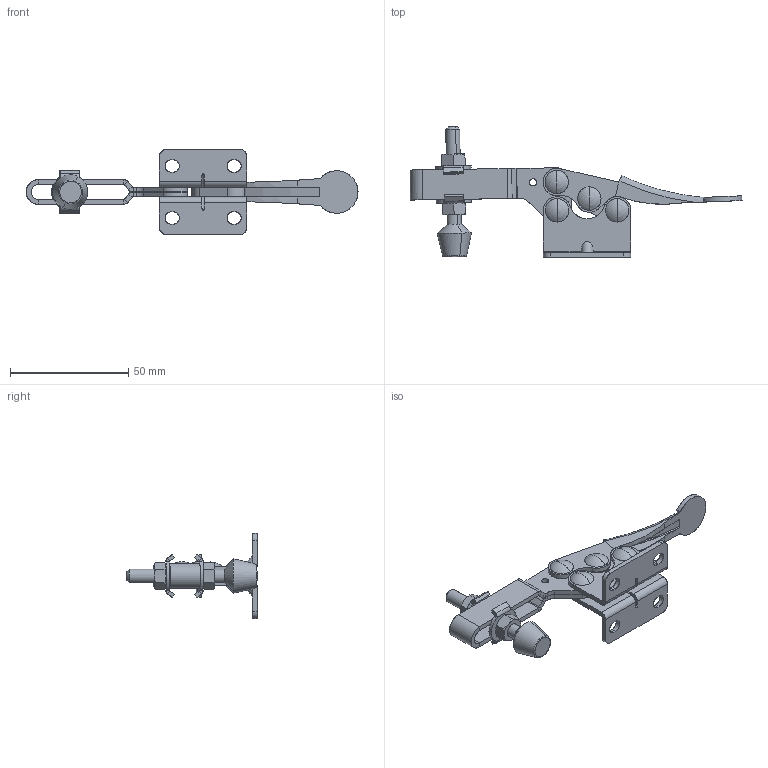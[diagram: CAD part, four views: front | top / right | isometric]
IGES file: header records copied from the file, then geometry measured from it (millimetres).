
Start section: SolidWorks IGES file using analytic representation for surfaces
Global section: file name: \\BARTOP_SV6\share\SOLIDWORKS\工具事業部\坂入用\受け渡し\2015.06.30-2\ISK-HH3500\ISK-HH3500.IGS; native system: SolidWorks 2015; preprocessor: SolidWorks 2015; author: SOLID02; date: 150630.162433; units: millimetre
Bounding box: 140.48 x 55.16 x 36 mm (x, y, z)
Surface area: 19342.5 mm2 (no closed solid volume)
Topology: 0 solids, 0 shells, 370 faces, 5211 edges, 5199 vertices
Faces by surface type: revolution 194, bspline 176
